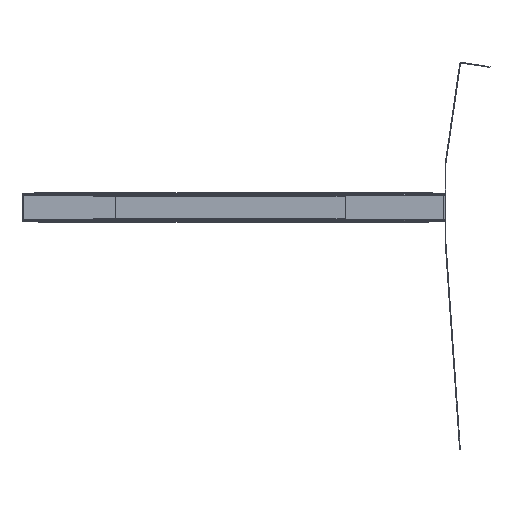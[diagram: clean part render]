
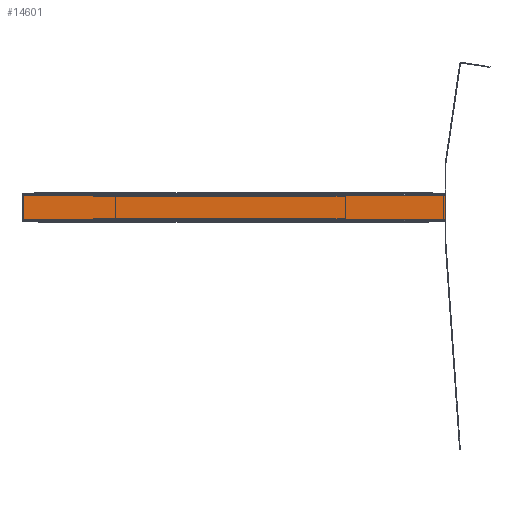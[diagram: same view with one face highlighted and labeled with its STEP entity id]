
A CAD part, front view. The second image highlights one B-rep face of the part: STEP entity #14601.
In plain terms, the highlighted planar face has unit normal (0, -1, 0).
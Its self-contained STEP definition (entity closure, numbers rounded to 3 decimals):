
#106=PLANE($,#15455);
#560=FACE_OUTER_BOUND($,#1326,.T.);
#1326=EDGE_LOOP($,(#9688,#9689,#9690,#9691));
#2825=LINE($,#21576,#4289);
#2830=LINE($,#21588,#4294);
#2842=LINE($,#21614,#4306);
#2843=LINE($,#21617,#4307);
#4289=VECTOR($,#17250,17.083);
#4294=VECTOR($,#17265,300.);
#4306=VECTOR($,#17297,300.);
#4307=VECTOR($,#17302,17.083);
#5740=VERTEX_POINT($,#21567);
#5741=VERTEX_POINT($,#21571);
#5743=VERTEX_POINT($,#21587);
#5747=VERTEX_POINT($,#21613);
#7228=EDGE_CURVE($,#5740,#5741,#2825,.T.);
#7234=EDGE_CURVE($,#5743,#5740,#2830,.T.);
#7247=EDGE_CURVE($,#5747,#5741,#2842,.T.);
#7249=EDGE_CURVE($,#5743,#5747,#2843,.T.);
#9688=ORIENTED_EDGE($,*,*,#7247,.T.);
#9689=ORIENTED_EDGE($,*,*,#7228,.F.);
#9690=ORIENTED_EDGE($,*,*,#7234,.F.);
#9691=ORIENTED_EDGE($,*,*,#7249,.T.);
#14601=ADVANCED_FACE($,(#560),#106,.T.);
#15455=AXIS2_PLACEMENT_3D($,#21616,#17300,#17301);
#17250=DIRECTION($,(0.,0.,1.));
#17265=DIRECTION($,(-1.,0.,0.));
#17297=DIRECTION($,(-1.,0.,0.));
#17300=DIRECTION('center_axis',(0.,-1.,0.));
#17301=DIRECTION('ref_axis',(0.,0.,1.));
#17302=DIRECTION($,(0.,0.,1.));
#21567=CARTESIAN_POINT('',(-150.,-400.,-8.542));
#21571=CARTESIAN_POINT('',(-150.,-400.,8.542));
#21576=CARTESIAN_POINT($,(-150.,-400.,-8.542));
#21587=CARTESIAN_POINT('',(150.,-400.,-8.542));
#21588=CARTESIAN_POINT($,(150.,-400.,-8.542));
#21613=CARTESIAN_POINT('',(150.,-400.,8.542));
#21614=CARTESIAN_POINT($,(150.,-400.,8.542));
#21616=CARTESIAN_POINT('Origin',(150.,-400.,-8.542));
#21617=CARTESIAN_POINT($,(150.,-400.,-8.542));
